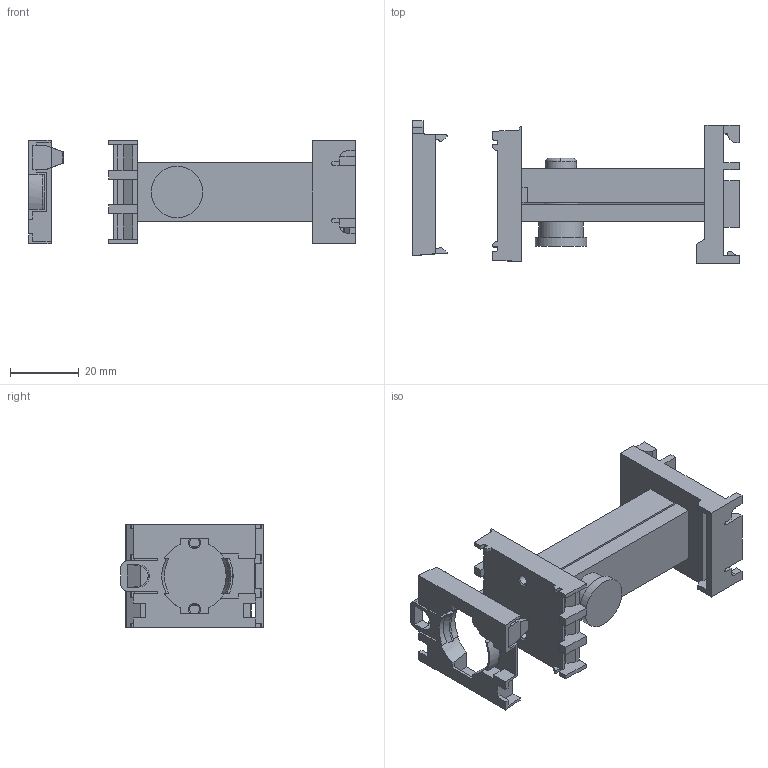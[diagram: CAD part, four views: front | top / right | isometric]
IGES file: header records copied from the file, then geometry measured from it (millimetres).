
Start section: Data from XPlus IGES,  Spatial Corp. Copyright (c) 1999-2004
Global section: file name: 216398.igs; native system:  By Spatial Corp.; preprocessor: XPlus ACIS/IGES 3.0; author: Noname; organization: Noname; date: 20120614.162114; units: millimetre
Bounding box: 94.7 x 41.4 x 30 mm (x, y, z)
Surface area: 18808.2 mm2 (no closed solid volume)
Topology: 0 solids, 0 shells, 332 faces, 1954 edges, 1954 vertices
Faces by surface type: extrusion 270, revolution 62
